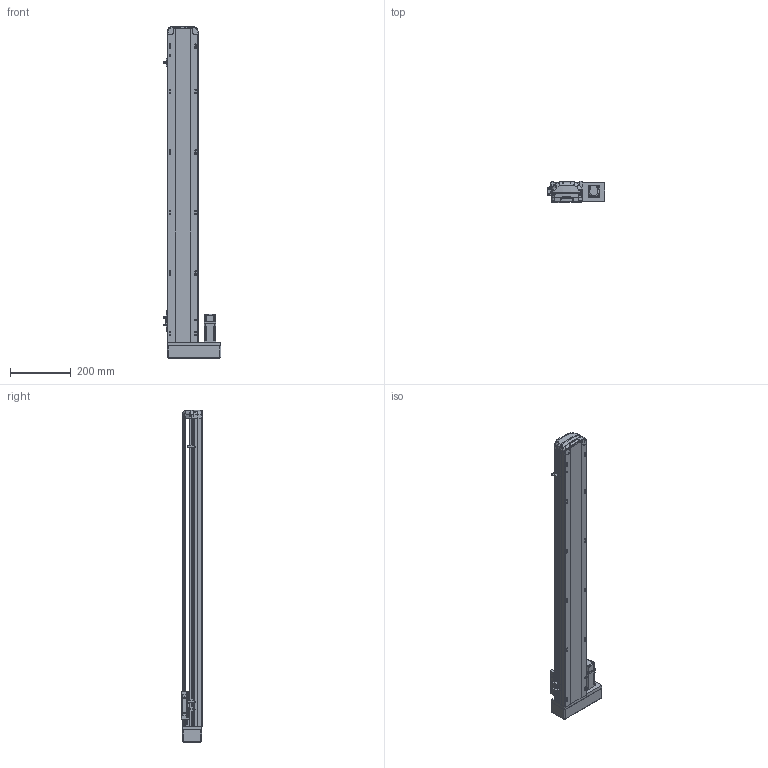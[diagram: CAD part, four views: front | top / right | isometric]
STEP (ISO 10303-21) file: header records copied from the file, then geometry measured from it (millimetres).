
FILE_DESCRIPTION (( 'STEP AP214' ), '1' );
FILE_NAME ('RTH10-XX-850-R-M10-C4.STEP', '2025-10-25T05:56:22', ( 'Microsoft' ), ( 'Microsoft' ), 'SwSTEP 2.0', 'SolidWorks 2018', '' );
FILE_SCHEMA (( 'AUTOMOTIVE_DESIGN' ));
Length unit declared in the file: millimetre
Products named in the file (10): N_P10^RTH10-XX-100-R-M10-C4; N_RTH12-M-011P-臏倰第菁釱^RTH10-XX-100-R-M10-C4; N_OMRON EE-SX672 传感器^RTH10-XX-100-R-M10-C4; N_RTH13-L-012覜茼え俋离^RTH10-XX-100-R-M10-C4; RTH10-XX-850-R-M10-C4; N_RTH12-GY-001P^RTH10-XX-100-R-M10-C4; N_RTH12-L-008萇儂啣^RTH10-XX-100-R-M10-C4; N_RTH12-GY-004-賑釱^RTH10-XX-100-R-M10-C4; N_RTH12-L-018-裔赽^RTH10-XX-100-R-M10-C4; N_RTH12-M-007P-奻裔^RTH10-XX-100-R-M10-C4
Assembly tree (11 placements, depth 2):
  RTH10-XX-850-R-M10-C4
    N_RTH12-M-011P-臏倰第菁釱^RTH10-XX-100-R-M10-C4
    N_RTH13-L-012覜茼え俋离^RTH10-XX-100-R-M10-C4
    N_OMRON EE-SX672 传感器^RTH10-XX-100-R-M10-C4  x3
    N_P10^RTH10-XX-100-R-M10-C4
    N_RTH12-M-007P-奻裔^RTH10-XX-100-R-M10-C4
    N_RTH12-L-008萇儂啣^RTH10-XX-100-R-M10-C4
    N_RTH12-L-018-裔赽^RTH10-XX-100-R-M10-C4
    N_RTH12-GY-004-賑釱^RTH10-XX-100-R-M10-C4
    N_RTH12-GY-001P^RTH10-XX-100-R-M10-C4
Bounding box: 190 x 70 x 1097.31 mm (x, y, z)
Volume: 4663693.6 mm3; surface area: 711880.7 mm2
Topology: 10 solids, 12 shells, 1940 faces, 5422 edges, 3557 vertices
Faces by surface type: plane 951, cylinder 482, bspline 472, cone 29, sphere 4, torus 2
Entity records: 58570 total; most frequent: CARTESIAN_POINT 23309, ORIENTED_EDGE 7916, DIRECTION 6084, EDGE_CURVE 3964, VERTEX_POINT 2601, LINE 2068, VECTOR 2068, AXIS2_PLACEMENT_3D 2008
